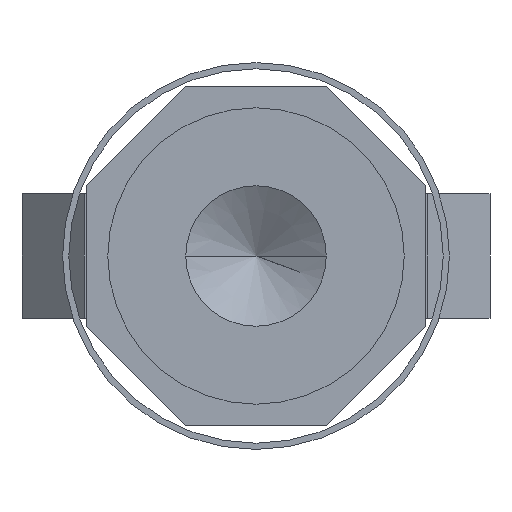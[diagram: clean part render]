
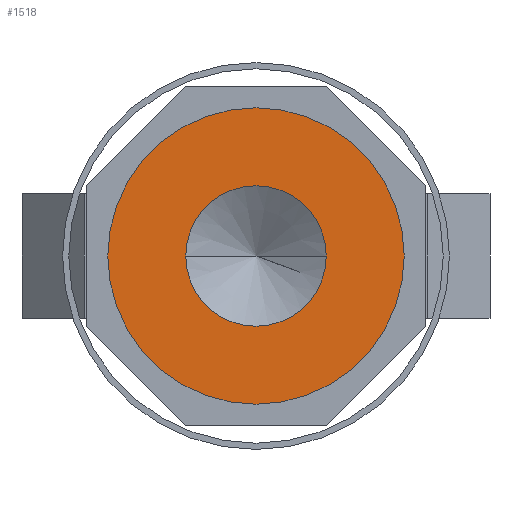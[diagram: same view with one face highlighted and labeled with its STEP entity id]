
A CAD part, left-side view. The second image highlights one B-rep face of the part: STEP entity #1518.
In plain terms, the highlighted planar face has unit normal (-1, 0, 0).
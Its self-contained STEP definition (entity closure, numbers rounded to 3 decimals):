
#304=CARTESIAN_POINT('',(-117.,0.,0.));
#305=DIRECTION('',(-1.,0.,0.));
#306=DIRECTION('',(0.,-1.,0.));
#307=AXIS2_PLACEMENT_3D('',#304,#305,#306);
#309=CARTESIAN_POINT('',(-117.,0.,0.));
#310=DIRECTION('',(-1.,0.,0.));
#311=DIRECTION('',(0.,1.,0.));
#312=AXIS2_PLACEMENT_3D('',#309,#310,#311);
#314=CARTESIAN_POINT('',(-117.,0.,0.));
#315=DIRECTION('',(-1.,0.,0.));
#316=DIRECTION('',(0.,1.,0.));
#317=AXIS2_PLACEMENT_3D('',#314,#315,#316);
#319=CARTESIAN_POINT('',(-117.,0.,0.));
#320=DIRECTION('',(-1.,0.,0.));
#321=DIRECTION('',(0.,-1.,0.));
#322=AXIS2_PLACEMENT_3D('',#319,#320,#321);
#822=CARTESIAN_POINT('',(-117.,-9.5,0.));
#823=CARTESIAN_POINT('',(-117.,9.5,0.));
#824=VERTEX_POINT('',#822);
#825=VERTEX_POINT('',#823);
#912=CARTESIAN_POINT('',(-117.,4.5,0.));
#913=CARTESIAN_POINT('',(-117.,-4.5,0.));
#914=VERTEX_POINT('',#912);
#915=VERTEX_POINT('',#913);
#1502=CARTESIAN_POINT('',(-117.,0.,0.));
#1503=DIRECTION('',(1.,0.,0.));
#1504=DIRECTION('',(0.,-1.,0.));
#1505=AXIS2_PLACEMENT_3D('',#1502,#1503,#1504);
#1506=PLANE('',#1505);
#1507=ORIENTED_EDGE('',*,*,#1492,.F.);
#1509=ORIENTED_EDGE('',*,*,#1508,.F.);
#1510=EDGE_LOOP('',(#1507,#1509));
#1511=FACE_OUTER_BOUND('',#1510,.F.);
#1513=ORIENTED_EDGE('',*,*,#1512,.T.);
#1515=ORIENTED_EDGE('',*,*,#1514,.T.);
#1516=EDGE_LOOP('',(#1513,#1515));
#1517=FACE_BOUND('',#1516,.F.);
#1518=ADVANCED_FACE('',(#1511,#1517),#1506,.F.);
#308=CIRCLE('',#307,9.5);
#313=CIRCLE('',#312,9.5);
#318=CIRCLE('',#317,4.5);
#323=CIRCLE('',#322,4.5);
#1492=EDGE_CURVE('',#824,#825,#308,.T.);
#1508=EDGE_CURVE('',#825,#824,#313,.T.);
#1512=EDGE_CURVE('',#914,#915,#318,.T.);
#1514=EDGE_CURVE('',#915,#914,#323,.T.);
